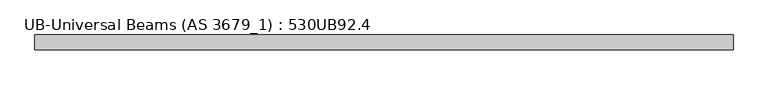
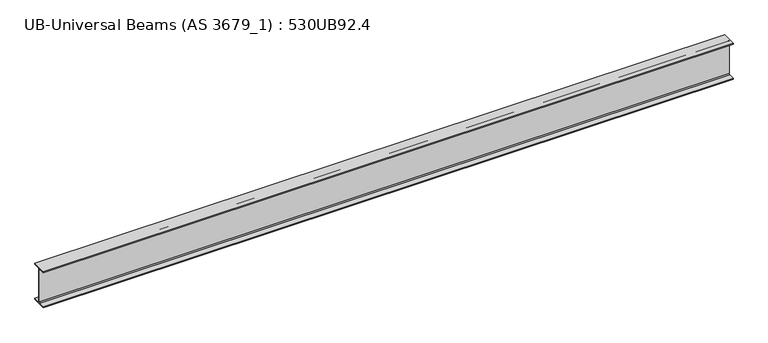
"""IFC4 building model written with IfcOpenShell, lengths in millimetres: beam geometry, UB-Universal Beams (AS 3679_1) : 530UB92.4."""

from ifc_helpers import new_model, si_unit, point, frame, frame_2d, origin, place, context, project, spatial, polyline, circle_curve, trimmed, segment, composite_curve, outline, extrude, source, transform, mapped, element, save


def ub_universal_beams_as_3679_1_530ub92_4_80d32716(model_context):
    return source(origin(), model_context, "Body", "SweptSolid", [
        extrude(outline(composite_curve([segment(polyline([(104.5, -250.9), (104.5, -266.5), (-104.5, -266.5), (-104.5, -250.9), (-19.1, -250.9)]), True, "CONTINUOUS"), segment(trimmed(circle_curve(frame_2d((-19.1, -236.9)), 14.0), [point((-19.1, -250.9))], [point((-5.1, -236.9))], True, "CARTESIAN"), True, "CONTINUOUS"), segment(polyline([(-5.1, -236.9), (-5.1, 236.9)]), True, "CONTINUOUS"), segment(trimmed(circle_curve(frame_2d((-19.1, 236.9)), 14.0), [point((-5.1, 236.9))], [point((-19.1, 250.9))], True, "CARTESIAN"), True, "CONTINUOUS"), segment(polyline([(-19.1, 250.9), (-104.5, 250.9), (-104.5, 266.5), (104.5, 266.5), (104.5, 250.9), (19.1, 250.9)]), True, "CONTINUOUS"), segment(trimmed(circle_curve(frame_2d((19.1, 236.9)), 14.0), [point((19.1, 250.9))], [point((5.1, 236.9))], True, "CARTESIAN"), True, "CONTINUOUS"), segment(polyline([(5.1, 236.9), (5.1, -236.9)]), True, "CONTINUOUS"), segment(trimmed(circle_curve(frame_2d((19.1, -236.9)), 14.0), [point((5.1, -236.9))], [point((19.1, -250.9))], True, "CARTESIAN"), True, "CONTINUOUS"), segment(polyline([(19.1, -250.9), (104.5, -250.9)]), True, "CONTINUOUS")], self_intersect=False)), frame((-4853.4, 0.0, 0.0), z_axis=(1.0, 0.0, 0.0), x_axis=(0.0, 1.0, 0.0)), (0.0, 0.0, 1.0), 9706.8),
    ])


if __name__ == "__main__":
    model = new_model("IFC4")
    model_context = context("Model", 3, world=origin())
    ifc_project = project(units=[si_unit("LENGTHUNIT", "METRE", prefix="MILLI")], contexts=[model_context])
    site = spatial("IfcSite", under=ifc_project)
    building = spatial("IfcBuilding", under=site)
    placement = place(None, origin())
    ub_universal_beams_as_3679_1_530ub92_4_shape = ub_universal_beams_as_3679_1_530ub92_4_80d32716(model_context)
    element("IfcBeam", 1, ObjectType="UB-Universal Beams (AS 3679_1) : 530UB92.4", at=placement, inside=building, context=model_context, shape_type="MappedRepresentation", body=[
        mapped(ub_universal_beams_as_3679_1_530ub92_4_shape, transform((0.0, 0.0, 0.0), x_axis=(1.0, 0.0, 0.0), y_axis=(0.0, 1.0, 0.0), z_axis=(0.0, 0.0, 1.0))),
    ])
    save(model, "model.ifc")
